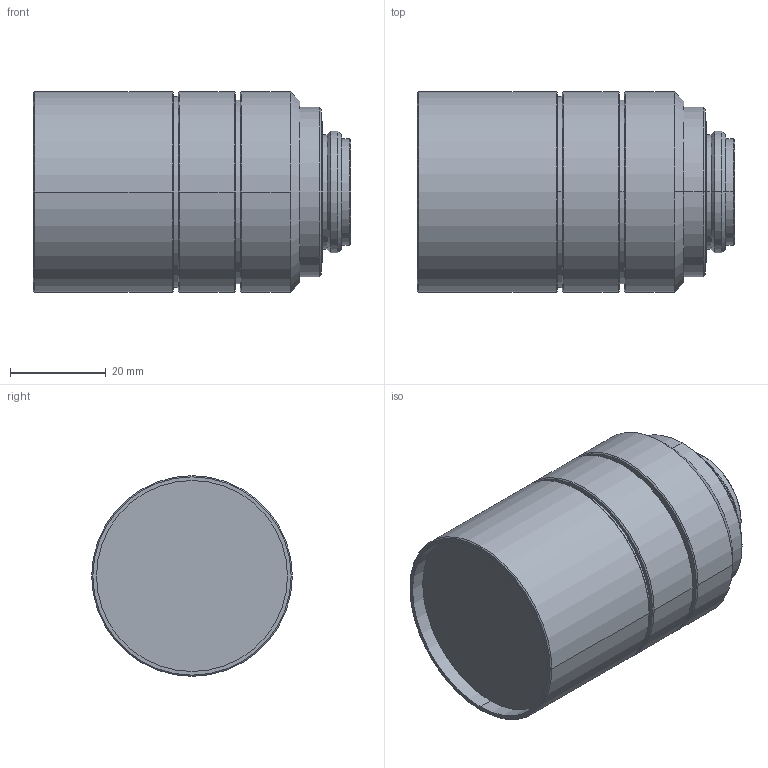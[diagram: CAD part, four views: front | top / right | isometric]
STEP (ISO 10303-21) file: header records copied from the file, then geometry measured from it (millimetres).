
FILE_DESCRIPTION(/* description */ ('AP214 STEP file'),/* implementation_level */ '2;1');
FILE_NAME(/* name */ 'FL-BC1220-9M',/* time_stamp */ '2016-08-12T08:54:59+02:00',/* author */ (''),/* organization */ (''),/* preprocessor_version */ '',/* originating_system */ 'UNIGRAPHICS',/* authorisation */ '');
FILE_SCHEMA (('AUTOMOTIVE_DESIGN'));
Length unit declared in the file: millimetre
Products named in the file (1): FL-BC1220-9M
Bounding box: 66.4 x 42 x 42 mm (x, y, z)
Volume: 80171.6 mm3; surface area: 11896.5 mm2
Topology: 1 solids, 1 shells, 53 faces, 116 edges, 74 vertices
Faces by surface type: cone 22, cylinder 20, plane 11
Entity records: 1390 total; most frequent: CARTESIAN_POINT 243, ORIENTED_EDGE 232, AXIS2_PLACEMENT_3D 128, EDGE_CURVE 116, STYLED_ITEM 106, CIRCLE 74, VERTEX_POINT 74, DIRECTION 63
